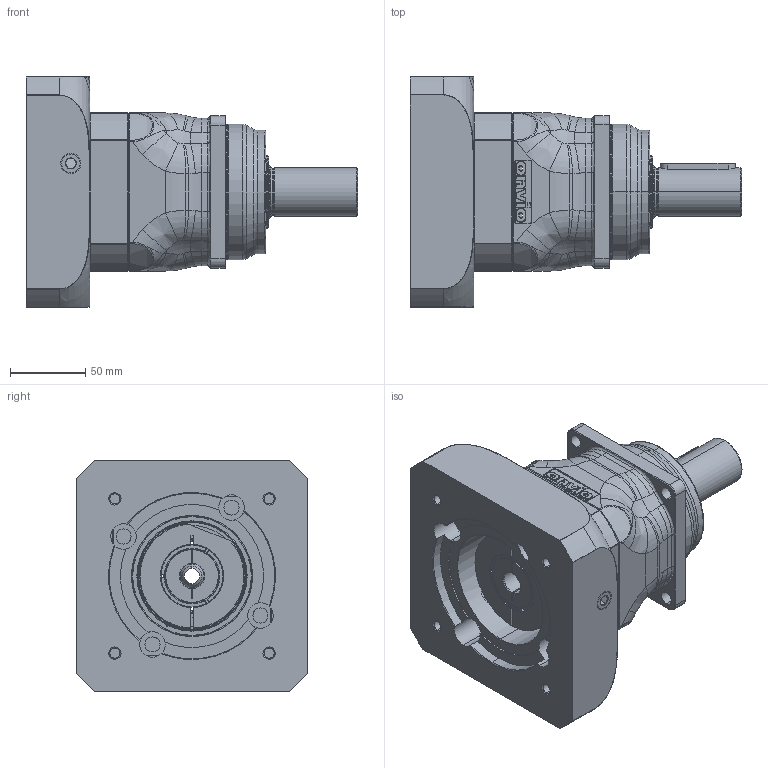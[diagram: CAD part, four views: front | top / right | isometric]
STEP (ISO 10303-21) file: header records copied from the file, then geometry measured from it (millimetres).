
FILE_DESCRIPTION (( 'STEP AP214' ), '1' );
FILE_NAME ('AH-030-0RR-FFF-MMM-S-LL-XXX-CXX-0000.STEP', '2019-10-11T20:27:49', ( '' ), ( '' ), 'SwSTEP 2.0', 'SolidWorks 2019', '' );
FILE_SCHEMA (( 'AUTOMOTIVE_DESIGN' ));
Length unit declared in the file: millimetre
Products named in the file (1): AH-030-0RR-FFF-MMM-S-LL-XXX-CXX-0000
Bounding box: 220 x 153 x 153 mm (x, y, z)
Surface area: 155414.2 mm2 (no closed solid volume)
Topology: 0 solids, 62 shells, 751 faces, 3241 edges, 2521 vertices
Faces by surface type: cylinder 254, plane 183, torus 137, cone 93, bspline 84
Entity records: 51548 total; most frequent: CARTESIAN_POINT 18576, DIRECTION 4766, ORIENTED_EDGE 4595, EDGE_CURVE 3237, VERTEX_POINT 2521, AXIS2_PLACEMENT_3D 1717, LINE 1332, VECTOR 1332
